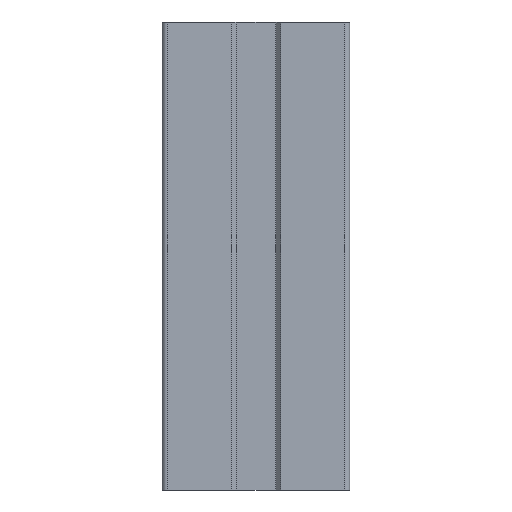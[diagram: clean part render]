
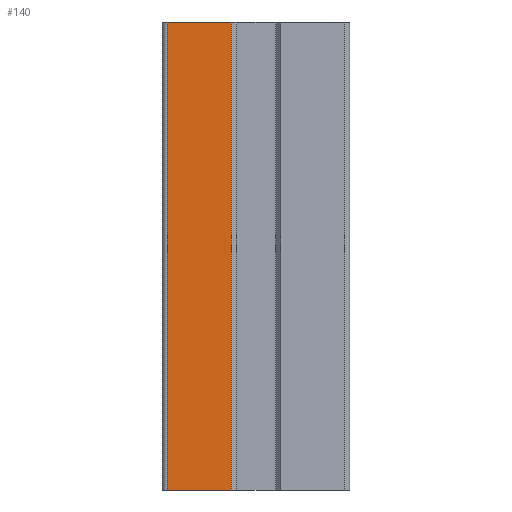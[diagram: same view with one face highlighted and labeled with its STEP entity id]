
A CAD part, left-side view. The second image highlights one B-rep face of the part: STEP entity #140.
In plain terms, the highlighted planar face has unit normal (-1, 0, 0).
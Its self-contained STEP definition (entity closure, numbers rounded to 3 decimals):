
#73=CARTESIAN_POINT('',(-20.,19.,100.0));
#74=VERTEX_POINT('',#73);
#92=CARTESIAN_POINT('',(-20.,19.,0.0));
#93=VERTEX_POINT('',#92);
#101=CARTESIAN_POINT('',(-20.,19.,0.0));
#102=DIRECTION('',(0.0,0.0,1.0));
#103=VECTOR('',#102,100.0);
#104=LINE('',#101,#103);
#105=EDGE_CURVE('',#93,#74,#104,.T.);
#110=CARTESIAN_POINT('',(-20.,0.,0.0));
#111=DIRECTION('',(-1.0,0.0,0.0));
#112=DIRECTION('',(0.0,0.0,1.0));
#113=AXIS2_PLACEMENT_3D('',#110,#111,#112);
#114=PLANE('',#113);
#115=ORIENTED_EDGE('',*,*,#105,.F.);
#116=CARTESIAN_POINT('',(-20.,5.25,0.0));
#117=VERTEX_POINT('',#116);
#118=CARTESIAN_POINT('',(-20.,19.,0.0));
#119=DIRECTION('',(0.0,-1.0,0.0));
#120=VECTOR('',#119,13.75);
#121=LINE('',#118,#120);
#122=EDGE_CURVE('',#93,#117,#121,.T.);
#123=ORIENTED_EDGE('',*,*,#122,.T.);
#124=CARTESIAN_POINT('',(-20.,5.25,100.0));
#125=VERTEX_POINT('',#124);
#126=CARTESIAN_POINT('',(-20.,5.25,100.0));
#127=DIRECTION('',(0.0,0.0,-1.0));
#128=VECTOR('',#127,100.0);
#129=LINE('',#126,#128);
#130=EDGE_CURVE('',#125,#117,#129,.T.);
#131=ORIENTED_EDGE('',*,*,#130,.F.);
#132=CARTESIAN_POINT('',(-20.,5.25,100.0));
#133=DIRECTION('',(0.0,1.0,0.0));
#134=VECTOR('',#133,13.75);
#135=LINE('',#132,#134);
#136=EDGE_CURVE('',#125,#74,#135,.T.);
#137=ORIENTED_EDGE('',*,*,#136,.T.);
#138=EDGE_LOOP('',(#115,#123,#131,#137));
#139=FACE_OUTER_BOUND('',#138,.T.);
#140=ADVANCED_FACE('',(#139),#114,.T.);
